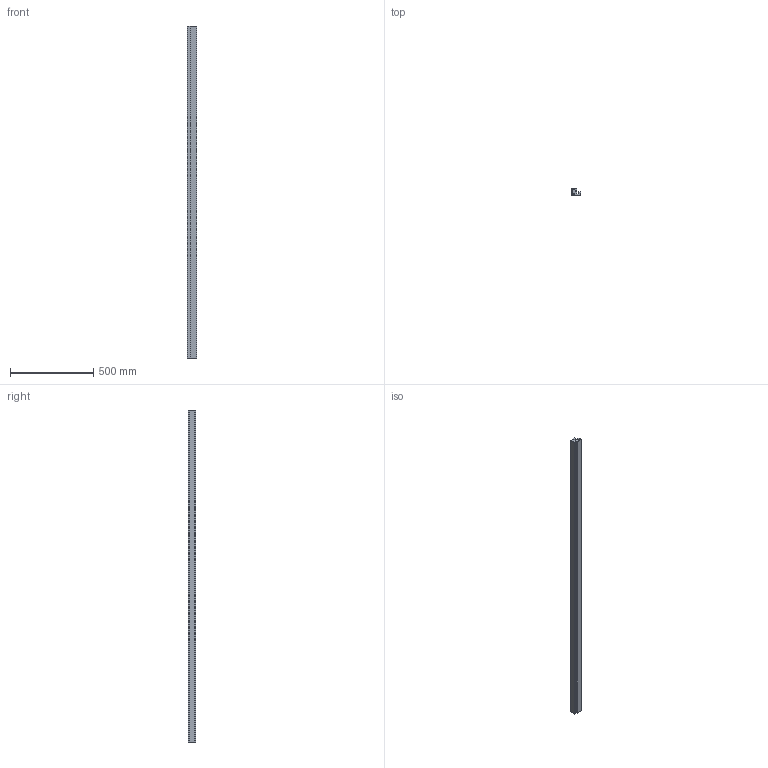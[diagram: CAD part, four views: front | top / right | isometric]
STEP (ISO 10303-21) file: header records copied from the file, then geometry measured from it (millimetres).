
FILE_DESCRIPTION (( 'STEP AP214' ), '1' );
FILE_NAME ('GHGE10.STEP', '2024-01-24T10:34:03', ( '' ), ( '' ), 'SwSTEP 2.0', 'SolidWorks 2022', '' );
FILE_SCHEMA (( 'AUTOMOTIVE_DESIGN' ));
Length unit declared in the file: millimetre
Products named in the file (3): GHGE10.SG; C3818_C3818; GHGE10
Assembly tree (2 placements, depth 2):
  GHGE10
    GHGE10.SG
    C3818_C3818
Bounding box: 56 x 42.5 x 2000 mm (x, y, z)
Volume: 2947283.2 mm3; surface area: 844827.4 mm2
Topology: 2 solids, 2 shells, 44 faces, 120 edges, 80 vertices
Faces by surface type: plane 40, cylinder 4
Entity records: 1680 total; most frequent: CARTESIAN_POINT 249, ORIENTED_EDGE 240, DIRECTION 226, EDGE_CURVE 120, LINE 112, VECTOR 112, VERTEX_POINT 80, AXIS2_PLACEMENT_3D 57
